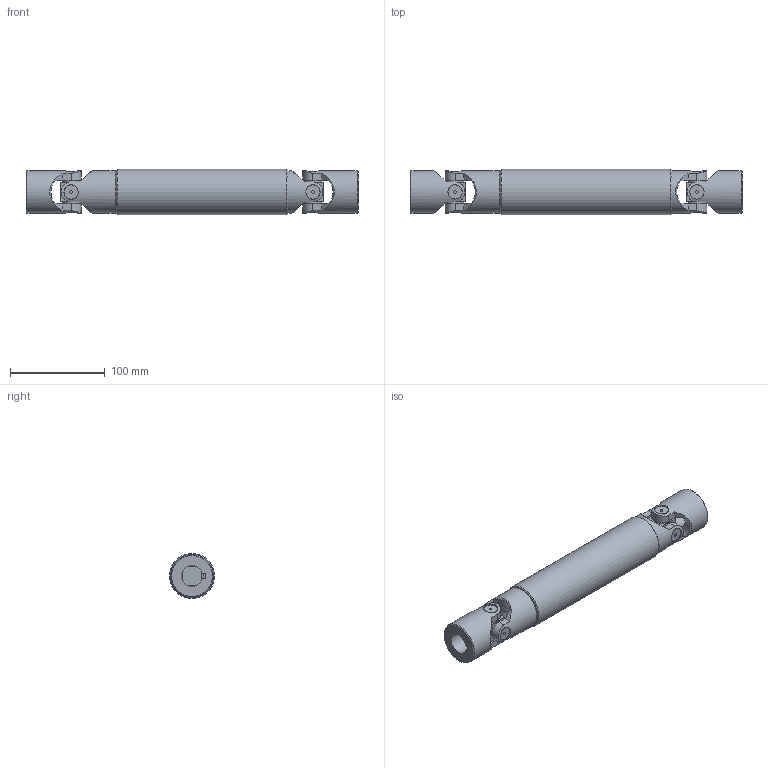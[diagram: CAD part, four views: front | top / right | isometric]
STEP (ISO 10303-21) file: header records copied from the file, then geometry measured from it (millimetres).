
FILE_DESCRIPTION(/* description */ (''),/* implementation_level */ '2;1');
FILE_NAME(/* name */ '\\SRV2016\Societa\Stefano\Disegni 3D\00Catalogo 3D\03Trasmissioni standard GA\4GA23\4GA23_SG0A2223.stp',/* time_stamp */ '2022-03-15T15:00:57+01:00',/* author */ ('acquisti'),/* organization */ (''),/* preprocessor_version */ 'ST-DEVELOPER v15.6',/* originating_system */ 'Autodesk Inventor 2015',/* authorisation */ '');
FILE_SCHEMA (('AUTOMOTIVE_DESIGN { 1 0 10303 214 3 1 1 }'));
Length unit declared in the file: millimetre
Products named in the file (5): 4G MOC; 4GA SFE; 4GA23 LCI; 4GA23 LAI; 4GA23_SG0A2223
Assembly tree (6 placements, depth 2):
  4GA23_SG0A2223
    4G MOC  x2
    4GA SFE  x2
    4GA23 LCI
    4GA23 LAI
Bounding box: 350 x 47.5 x 47.5 mm (x, y, z)
Volume: 416877 mm3; surface area: 112576.6 mm2
Topology: 6 solids, 6 shells, 204 faces, 513 edges, 345 vertices
Faces by surface type: plane 106, cylinder 69, cone 25, torus 4
Full cylindrical faces by diameter (mm): 3 x8, 15 x8, 19 x8, 22 x1, 23 x2, 39 x1, 45 x4, 47.5 x1
Entity records: 5283 total; most frequent: CARTESIAN_POINT 1527, DIRECTION 751, ORIENTED_EDGE 736, EDGE_CURVE 368, AXIS2_PLACEMENT_3D 299, VERTEX_POINT 268, EDGE_LOOP 212, FACE_OUTER_BOUND 158
